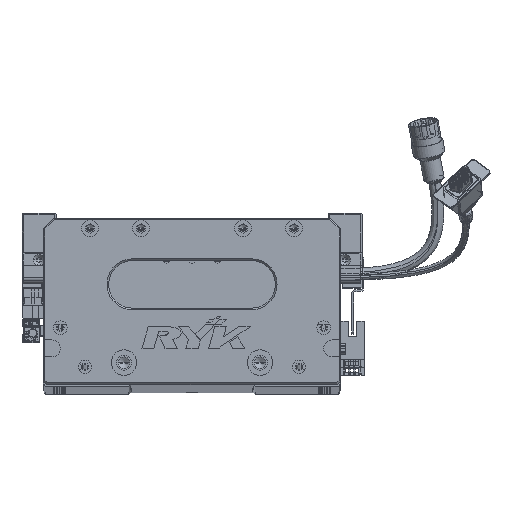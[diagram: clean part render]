
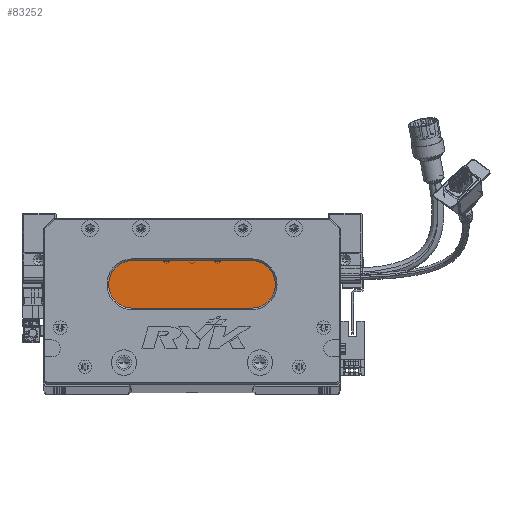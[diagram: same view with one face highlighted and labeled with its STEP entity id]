
A CAD part, top view. The second image highlights one B-rep face of the part: STEP entity #83252.
In plain terms, the highlighted planar face has unit normal (0, 0, 1) as drawn and (0, 0, -1) by its records, which use the part's own axes.
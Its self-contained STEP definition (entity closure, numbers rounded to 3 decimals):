
#2431 = ORIENTED_EDGE ( 'NONE', *, *, #60271, .T. ) ;
#3239 = CARTESIAN_POINT ( 'NONE',  ( 122.5, 73., 18. ) ) ;
#9305 = CARTESIAN_POINT ( 'NONE',  ( 122.5, 45., 18. ) ) ;
#9620 = EDGE_CURVE ( 'NONE', #20393, #91248, #89264, .T. ) ;
#16434 = DIRECTION ( 'NONE',  ( -1., 0., 0. ) ) ;
#20393 = VERTEX_POINT ( 'NONE', #9305 ) ;
#22256 = VECTOR ( 'NONE', #75419, 1000. ) ;
#25734 = FACE_OUTER_BOUND ( 'NONE', #121758, .T. ) ;
#33911 = ORIENTED_EDGE ( 'NONE', *, *, #9620, .T. ) ;
#34296 = DIRECTION ( 'NONE',  ( -1., 0., 0. ) ) ;
#34424 = DIRECTION ( 'NONE',  ( 0., 0., -1. ) ) ;
#35386 = VECTOR ( 'NONE', #34296, 1000. ) ;
#38635 = CIRCLE ( 'NONE', #119040, 14. ) ;
#41114 = AXIS2_PLACEMENT_3D ( 'NONE', #63645, #73773, #83971 ) ;
#51267 = CARTESIAN_POINT ( 'NONE',  ( 52.5, 45., 18. ) ) ;
#52402 = LINE ( 'NONE', #95312, #22256 ) ;
#53282 = VERTEX_POINT ( 'NONE', #3239 ) ;
#55965 = EDGE_CURVE ( 'NONE', #53282, #20393, #116002, .T. ) ;
#58093 = CIRCLE ( 'NONE', #86668, 14. ) ;
#59207 = DIRECTION ( 'NONE',  ( -1., 0., 0. ) ) ;
#59630 = CARTESIAN_POINT ( 'NONE',  ( 52.5, 59., 18. ) ) ;
#60271 = EDGE_CURVE ( 'NONE', #91248, #89134, #58093, .T. ) ;
#63162 = ORIENTED_EDGE ( 'NONE', *, *, #55965, .T. ) ;
#63645 = CARTESIAN_POINT ( 'NONE',  ( 122.5, 59., 18. ) ) ;
#65501 = ORIENTED_EDGE ( 'NONE', *, *, #118927, .T. ) ;
#65503 = CARTESIAN_POINT ( 'NONE',  ( 122.5, 59., 18. ) ) ;
#65688 = DIRECTION ( 'NONE',  ( 0., 0., -1. ) ) ;
#73773 = DIRECTION ( 'NONE',  ( 0., 0., -1. ) ) ;
#75419 = DIRECTION ( 'NONE',  ( 1., 0., 0. ) ) ;
#83252 = ADVANCED_FACE ( 'NONE', ( #25734 ), #125540, .T. ) ;
#83722 = CARTESIAN_POINT ( 'NONE',  ( 38.5, 59., 18. ) ) ;
#83971 = DIRECTION ( 'NONE',  ( -1., 0., 0. ) ) ;
#86668 = AXIS2_PLACEMENT_3D ( 'NONE', #116059, #65688, #16434 ) ;
#89134 = VERTEX_POINT ( 'NONE', #83722 ) ;
#89264 = LINE ( 'NONE', #114430, #35386 ) ;
#91248 = VERTEX_POINT ( 'NONE', #51267 ) ;
#95312 = CARTESIAN_POINT ( 'NONE',  ( 122.5, 73., 18. ) ) ;
#95559 = DIRECTION ( 'NONE',  ( -1., 0., 0. ) ) ;
#99039 = ORIENTED_EDGE ( 'NONE', *, *, #103674, .T. ) ;
#99899 = DIRECTION ( 'NONE',  ( 0., 0., -1. ) ) ;
#103674 = EDGE_CURVE ( 'NONE', #89134, #116027, #38635, .T. ) ;
#113324 = AXIS2_PLACEMENT_3D ( 'NONE', #65503, #34424, #95559 ) ;
#114430 = CARTESIAN_POINT ( 'NONE',  ( 122.5, 45., 18. ) ) ;
#116002 = CIRCLE ( 'NONE', #113324, 14. ) ;
#116027 = VERTEX_POINT ( 'NONE', #117646 ) ;
#116059 = CARTESIAN_POINT ( 'NONE',  ( 52.5, 59., 18. ) ) ;
#117646 = CARTESIAN_POINT ( 'NONE',  ( 52.5, 73., 18. ) ) ;
#118927 = EDGE_CURVE ( 'NONE', #116027, #53282, #52402, .T. ) ;
#119040 = AXIS2_PLACEMENT_3D ( 'NONE', #59630, #99899, #59207 ) ;
#121758 = EDGE_LOOP ( 'NONE', ( #63162, #33911, #2431, #99039, #65501 ) ) ;
#125540 = PLANE ( 'NONE',  #41114 ) ;
